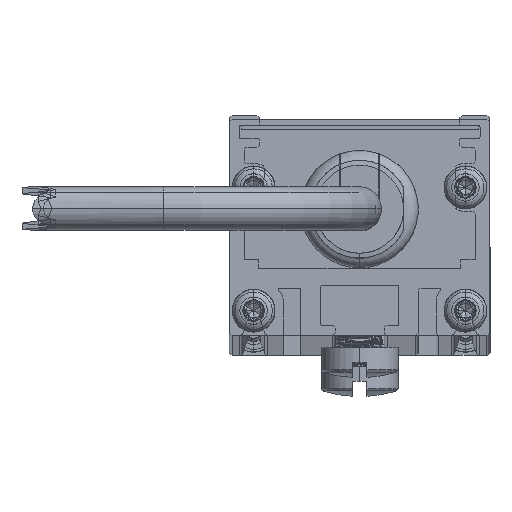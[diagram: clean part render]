
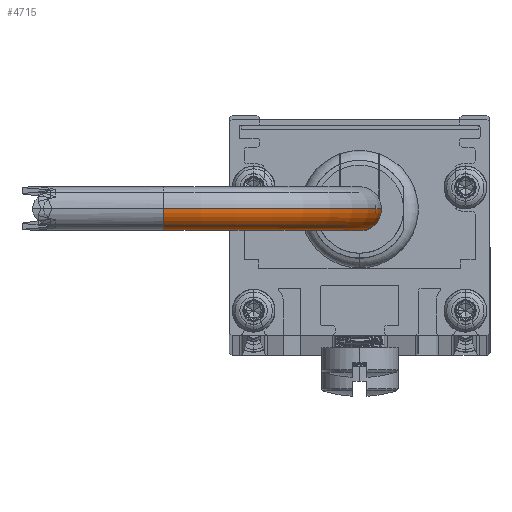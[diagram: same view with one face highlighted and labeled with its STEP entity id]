
A CAD part, top view. The second image highlights one B-rep face of the part: STEP entity #4715.
In plain terms, the highlighted toroidal (fillet/blend) face has major radius 25.4 mm and minor radius 2.845 mm.
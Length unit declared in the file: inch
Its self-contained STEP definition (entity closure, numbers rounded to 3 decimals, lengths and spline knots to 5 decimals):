
#150 = AXIS2_PLACEMENT_3D ( 'NONE', #16297, #11599, #12998 ) ;
#869 = ORIENTED_EDGE ( 'NONE', *, *, #17077, .F. ) ;
#918 = ORIENTED_EDGE ( 'NONE', *, *, #12935, .T. ) ;
#1566 = DIRECTION ( 'NONE',  ( 0., 0., 1. ) ) ;
#2559 = DIRECTION ( 'NONE',  ( 0., 0., 1. ) ) ;
#2720 = TOROIDAL_SURFACE ( 'NONE', #12077, 1., 0.112 ) ;
#4429 = EDGE_CURVE ( 'NONE', #10090, #16381, #8155, .T. ) ;
#4715 = ADVANCED_FACE ( 'NONE', ( #10187 ), #2720, .T. ) ;
#5303 = CARTESIAN_POINT ( 'NONE',  ( -0.112, 0., -1. ) ) ;
#5454 = CIRCLE ( 'NONE', #13779, 0.112 ) ;
#5586 = CARTESIAN_POINT ( 'NONE',  ( 0., 0., -1. ) ) ;
#6004 = VERTEX_POINT ( 'NONE', #5303 ) ;
#6481 = DIRECTION ( 'NONE',  ( 1., 0., 0. ) ) ;
#6801 = CARTESIAN_POINT ( 'NONE',  ( 1., 0., -2. ) ) ;
#7403 = ORIENTED_EDGE ( 'NONE', *, *, #10022, .T. ) ;
#8155 = CIRCLE ( 'NONE', #150, 0.888 ) ;
#8840 = CIRCLE ( 'NONE', #9447, 0.112 ) ;
#8962 = EDGE_LOOP ( 'NONE', ( #869, #918, #7403, #18173 ) ) ;
#9333 = CARTESIAN_POINT ( 'NONE',  ( 1., 0., -1. ) ) ;
#9447 = AXIS2_PLACEMENT_3D ( 'NONE', #5586, #1566, #14409 ) ;
#10022 = EDGE_CURVE ( 'NONE', #11738, #16381, #5454, .T. ) ;
#10090 = VERTEX_POINT ( 'NONE', #11479 ) ;
#10187 = FACE_OUTER_BOUND ( 'NONE', #8962, .T. ) ;
#11471 = CARTESIAN_POINT ( 'NONE',  ( 1., 0., -1. ) ) ;
#11479 = CARTESIAN_POINT ( 'NONE',  ( 0.112, 0., -1. ) ) ;
#11599 = DIRECTION ( 'NONE',  ( 0., -1., 0. ) ) ;
#11738 = VERTEX_POINT ( 'NONE', #14553 ) ;
#12077 = AXIS2_PLACEMENT_3D ( 'NONE', #11471, #17271, #17087 ) ;
#12935 = EDGE_CURVE ( 'NONE', #6004, #11738, #14402, .T. ) ;
#12998 = DIRECTION ( 'NONE',  ( 1., 0., 0. ) ) ;
#13569 = AXIS2_PLACEMENT_3D ( 'NONE', #9333, #13703, #6481 ) ;
#13703 = DIRECTION ( 'NONE',  ( 0., -1., 0. ) ) ;
#13779 = AXIS2_PLACEMENT_3D ( 'NONE', #6801, #18565, #2559 ) ;
#14402 = CIRCLE ( 'NONE', #13569, 1.112 ) ;
#14409 = DIRECTION ( 'NONE',  ( 1., 0., 0. ) ) ;
#14553 = CARTESIAN_POINT ( 'NONE',  ( 1., 0., -2.112 ) ) ;
#15215 = CARTESIAN_POINT ( 'NONE',  ( 1., 0., -1.888 ) ) ;
#16297 = CARTESIAN_POINT ( 'NONE',  ( 1., 0., -1. ) ) ;
#16381 = VERTEX_POINT ( 'NONE', #15215 ) ;
#17077 = EDGE_CURVE ( 'NONE', #6004, #10090, #8840, .T. ) ;
#17087 = DIRECTION ( 'NONE',  ( 0., 0., -1. ) ) ;
#17271 = DIRECTION ( 'NONE',  ( 0., -1., 0. ) ) ;
#18173 = ORIENTED_EDGE ( 'NONE', *, *, #4429, .F. ) ;
#18565 = DIRECTION ( 'NONE',  ( -1., 0., 0. ) ) ;
